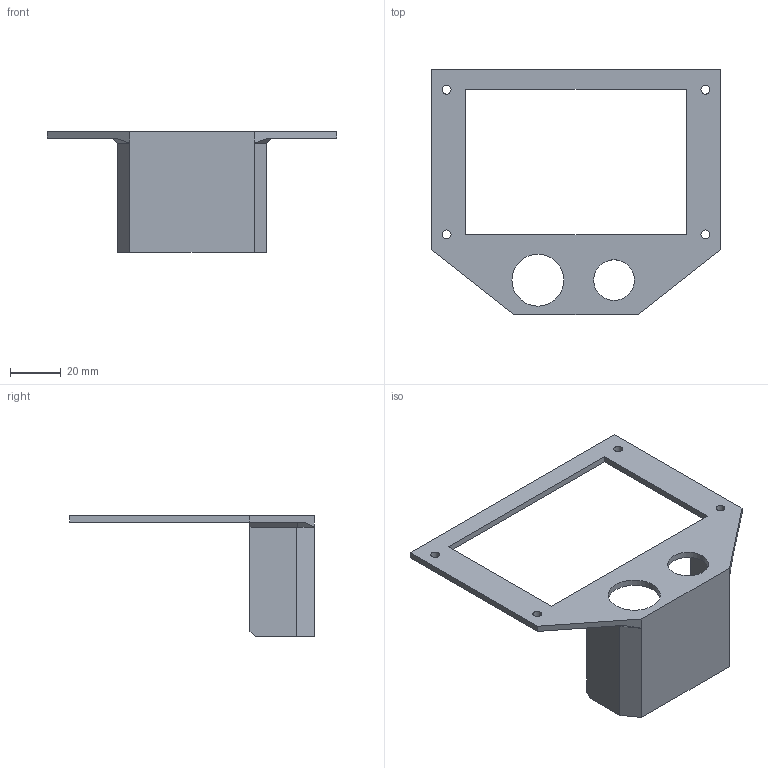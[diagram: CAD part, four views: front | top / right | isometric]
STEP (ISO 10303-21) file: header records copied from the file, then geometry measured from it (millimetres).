
FILE_DESCRIPTION(/* description */ (''),/* implementation_level */ '2;1');
FILE_NAME(/* name */ 'D:\3D печать\Мои проекты\Archy MK 2\STEP\дисплей рамка с кнопками.stp',/* time_stamp */ '2019-03-20T22:09:23+06:00',/* author */ ('Пользователь'),/* organization */ (''),/* preprocessor_version */ 'ST-DEVELOPER v16.5',/* originating_system */ 'Autodesk Inventor 2017',/* authorisation */ '');
FILE_SCHEMA (('AUTOMOTIVE_DESIGN { 1 0 10303 214 3 1 1 }'));
Length unit declared in the file: millimetre
Products named in the file (1): дисплей \X2\04400430043C043A
0430\X0\ с кнопками
Bounding box: 114 x 96.5 x 47.5 mm (x, y, z)
Volume: 18400.4 mm3; surface area: 20424.1 mm2
Topology: 1 solids, 1 shells, 36 faces, 108 edges, 78 vertices
Faces by surface type: plane 30, cylinder 6
Full cylindrical faces by diameter (mm): 3.5 x4, 16 x1, 20.5 x1
Entity records: 1205 total; most frequent: CARTESIAN_POINT 207, DIRECTION 186, ORIENTED_EDGE 184, EDGE_CURVE 92, LINE 84, VECTOR 84, VERTEX_POINT 64, EDGE_LOOP 56
